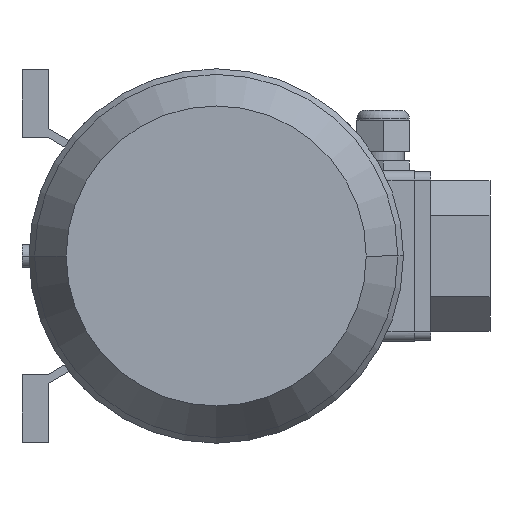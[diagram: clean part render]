
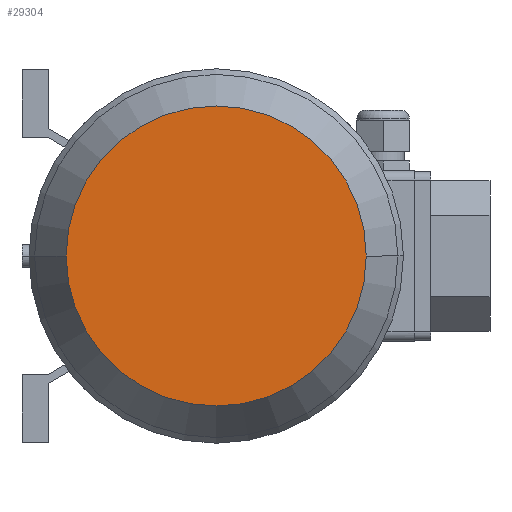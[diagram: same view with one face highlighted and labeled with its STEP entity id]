
A CAD part, front view. The second image highlights one B-rep face of the part: STEP entity #29304.
In plain terms, the highlighted planar face has unit normal (0, -1, 0) as drawn and (1, 0, 0) by its records, which use the part's own axes.
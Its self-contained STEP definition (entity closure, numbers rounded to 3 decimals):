
#22157=CARTESIAN_POINT('',(304.,0.,0.));
#22158=DIRECTION('',(-1.,0.,0.));
#22159=DIRECTION('',(0.,1.,0.));
#22160=AXIS2_PLACEMENT_3D('',#22157,#22158,#22159);
#22165=CARTESIAN_POINT('',(304.,0.,0.));
#22166=DIRECTION('',(1.,0.,0.));
#22167=DIRECTION('',(0.,1.,0.));
#22168=AXIS2_PLACEMENT_3D('',#22165,#22166,#22167);
#22522=CARTESIAN_POINT('',(304.,77.253,0.));
#22524=VERTEX_POINT('',#22522);
#22532=CARTESIAN_POINT('',(304.,-77.253,0.));
#22534=VERTEX_POINT('',#22532);
#29295=CARTESIAN_POINT('',(304.,0.,0.));
#29296=DIRECTION('',(1.,0.,0.));
#29297=DIRECTION('',(0.,-1.,0.));
#29298=AXIS2_PLACEMENT_3D('',#29295,#29296,#29297);
#29299=PLANE('',#29298);
#29300=ORIENTED_EDGE('',*,*,#29277,.T.);
#29301=ORIENTED_EDGE('',*,*,#29288,.F.);
#29302=EDGE_LOOP('',(#29300,#29301));
#29303=FACE_OUTER_BOUND('',#29302,.F.);
#22161=CIRCLE('',#22160,77.253);
#22169=CIRCLE('',#22168,77.253);
#29277=EDGE_CURVE('',#22524,#22534,#22161,.T.);
#29288=EDGE_CURVE('',#22524,#22534,#22169,.T.);
#29304=ADVANCED_FACE('',(#29303),#29299,.T.);
